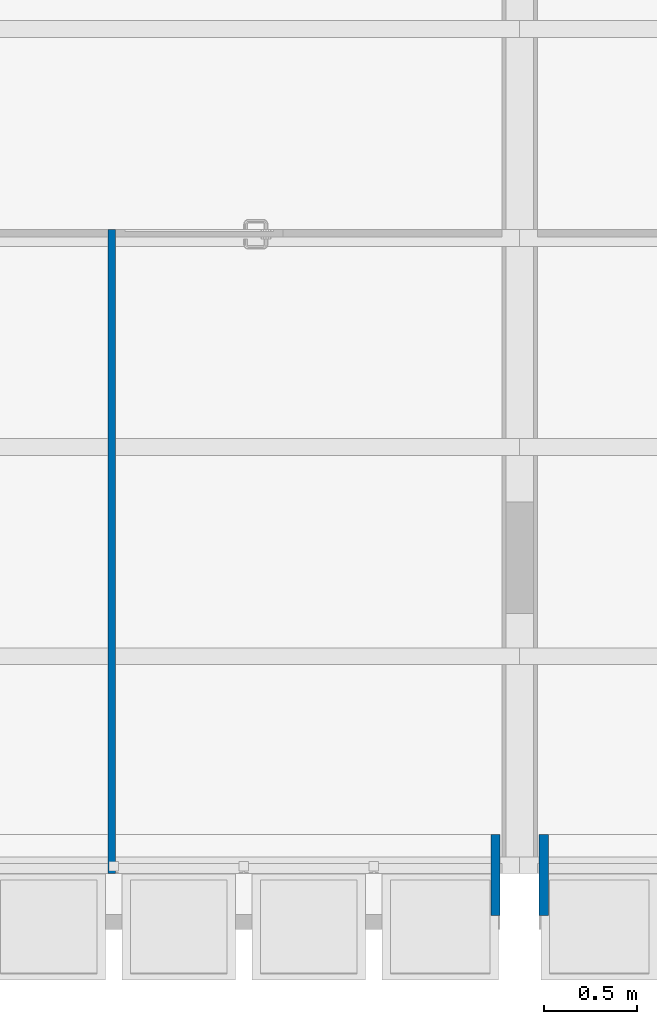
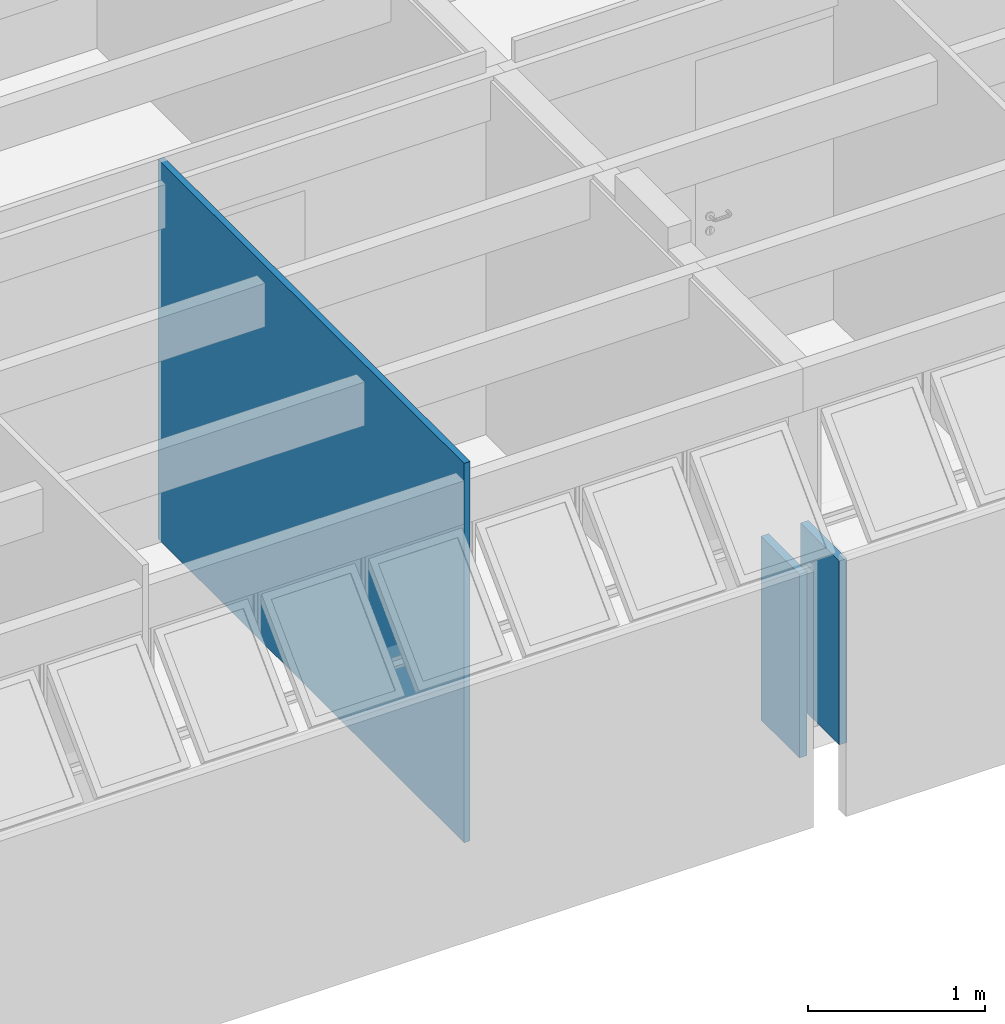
# One storey, part 18 of 40: 3 walls.
"""IFC4 building model written with IfcOpenShell, lengths in millimetres."""

from ifc_helpers import new_model, entity, si_unit, converted_unit, derived_unit, direction, frame, origin_with_axes, place, context, subcontext, project, spatial, line, indexed_curve, outline, extrude, material, layer, layer_set, layer_usage, type_object, element, save


model = new_model("IFC4")

# Units and contexts
model_context = context("Model", 3, precision=0.01, world=origin_with_axes(), true_north=direction((0.0, 1.0)))
body_context = subcontext(model_context, "Body", "Model", "MODEL_VIEW")
ifc_project = project(units=[si_unit("LENGTHUNIT", "METRE", prefix="MILLI"), si_unit("AREAUNIT", "SQUARE_METRE"), si_unit("VOLUMEUNIT", "CUBIC_METRE"), converted_unit("PLANEANGLEUNIT", "DEGREE", entity("IfcPlaneAngleMeasure", 0.0174532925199), si_unit("PLANEANGLEUNIT", "RADIAN"), dimensions=[0, 0, 0, 0, 0, 0, 0]), converted_unit("TIMEUNIT", "Year", entity("IfcTimeMeasure", 31556926.0), si_unit("TIMEUNIT", "SECOND"), dimensions=[0, 0, 1, 0, 0, 0, 0]), si_unit("MASSUNIT", "GRAM", prefix="KILO"), si_unit("THERMODYNAMICTEMPERATUREUNIT", "DEGREE_CELSIUS"), si_unit("LUMINOUSINTENSITYUNIT", "LUMEN"), si_unit("ENERGYUNIT", "JOULE", prefix="MEGA"), derived_unit("THERMALCONDUCTANCEUNIT", [(si_unit("POWERUNIT", "WATT"), 1), (si_unit("LENGTHUNIT", "METRE"), -1), (si_unit("THERMODYNAMICTEMPERATUREUNIT", "KELVIN"), -1)]), derived_unit("SPECIFICHEATCAPACITYUNIT", [(si_unit("ENERGYUNIT", "JOULE"), 1), (si_unit("MASSUNIT", "GRAM", prefix="KILO"), -1), (si_unit("THERMODYNAMICTEMPERATUREUNIT", "KELVIN"), -1)]), derived_unit("MASSDENSITYUNIT", [(si_unit("MASSUNIT", "GRAM", prefix="KILO"), 1), (si_unit("VOLUMEUNIT", "CUBIC_METRE"), -1)])], contexts=[model_context])

# Site, building, storey
site_placement = place(None, origin_with_axes())
site = spatial("IfcSite", under=ifc_project, at=site_placement, Name="Local", CompositionType="ELEMENT")
building_placement = place(site_placement, origin_with_axes())
building = spatial("IfcBuilding", under=site, at=building_placement, Name="Construção", CompositionType="ELEMENT")
storey_placement = place(building_placement, frame((0.0, 0.0, 5300.0), z_axis=(0.0, 0.0, 1.0), x_axis=(1.0, 0.0, 0.0)))
storey = spatial("IfcBuildingStorey", under=building, at=storey_placement, Name="Terceiro Pavimento", CompositionType="ELEMENT", Elevation=5300.0)

# Walls
ifc_material_1 = material(Name="GENÉRICO - VEDAÇÃO EXTERNA")
ifc_layer_1 = layer(ifc_material_1, 40.0, ventilated="UNKNOWN", Name="GENÉRICO - VEDAÇÃO EXTERNA")
ifc_layer_set_1 = layer_set([ifc_layer_1], Name="GENÉRICO - VEDAÇÃO EXTERNA 40")
ifc_layer_usage_1 = layer_usage(ifc_layer_set_1, "AXIS2", "NEGATIVE", 0.0)
wall_type_1 = type_object("IfcWallType", Name="GENÉRICO - VEDAÇÃO EXTERNA 40", PredefinedType="NOTDEFINED")
wall_1_placement = place(storey_placement, frame((5210.0, 3765.0, 0.0), z_axis=(0.0, 0.0, 1.0), x_axis=(0.0, -1.0, 0.0)))
element("IfcWall", 1, at=wall_1_placement, inside=storey, type_object=wall_type_1, material=ifc_layer_usage_1, Name="APTO9-PAREDE-005", PredefinedType="NOTDEFINED", context=body_context, shape_type="SweptSolid", body=[
    extrude(outline(indexed_curve([(0.0, -40.0), (3465.0, -40.0), (3465.0, 0.0), (0.0, 0.0)], segments=[line(1, 2, 3, 4, 1)])), origin_with_axes(), (0.0, 0.0, 1.0), 2620.0),
])
ifc_material_2 = material(Name="Concreto Armado Moldado in Loco - Estrutural")
ifc_layer_2 = layer(ifc_material_2, 50.0, ventilated="UNKNOWN", Name="Concreto Armado Moldado in Loco - Estrutural")
ifc_layer_set_2 = layer_set([ifc_layer_2], Name="Concreto Armado Moldado in Loco - Estrutural 50")
ifc_layer_usage_2 = layer_usage(ifc_layer_set_2, "AXIS2", "NEGATIVE", 50.0)
wall_type_2 = type_object("IfcWallType", Name="Concreto Armado Moldado in Loco - Estrutural 50", PredefinedType="NOTDEFINED")
wall_2_placement = place(storey_placement, frame((7230.0, 510.0, 0.0), z_axis=(0.0, 0.0, 1.0), x_axis=(0.0, -1.0, 0.0)))
element("IfcWall", 2, at=wall_2_placement, inside=storey, type_object=wall_type_2, material=ifc_layer_usage_2, Name="APTO9-PAREDE-001", PredefinedType="NOTDEFINED", context=body_context, shape_type="SweptSolid", body=[
    extrude(outline(indexed_curve([(0.0, 0.0), (435.0, 0.0), (435.0, 50.0), (0.0, 50.0)], segments=[line(1, 2, 3, 4, 1)])), origin_with_axes(), (0.0, 0.0, 1.0), 1270.0),
])
ifc_layer_usage_3 = layer_usage(ifc_layer_set_2, "AXIS2", "POSITIVE", -50.0)
wall_3_placement = place(storey_placement, frame((7540.0, 510.0, 0.0), z_axis=(0.0, 0.0, 1.0), x_axis=(0.0, -1.0, 0.0)))
element("IfcWall", 3, at=wall_3_placement, inside=storey, type_object=wall_type_2, material=ifc_layer_usage_3, Name="APTO10-PAREDE-001", PredefinedType="NOTDEFINED", context=body_context, shape_type="SweptSolid", body=[
    extrude(outline(indexed_curve([(0.0, -50.0), (435.0, -50.0), (435.0, 0.0), (0.0, 0.0)], segments=[line(1, 2, 3, 4, 1)])), origin_with_axes(), (0.0, 0.0, 1.0), 1270.0),
])

save(model, "model.ifc")
